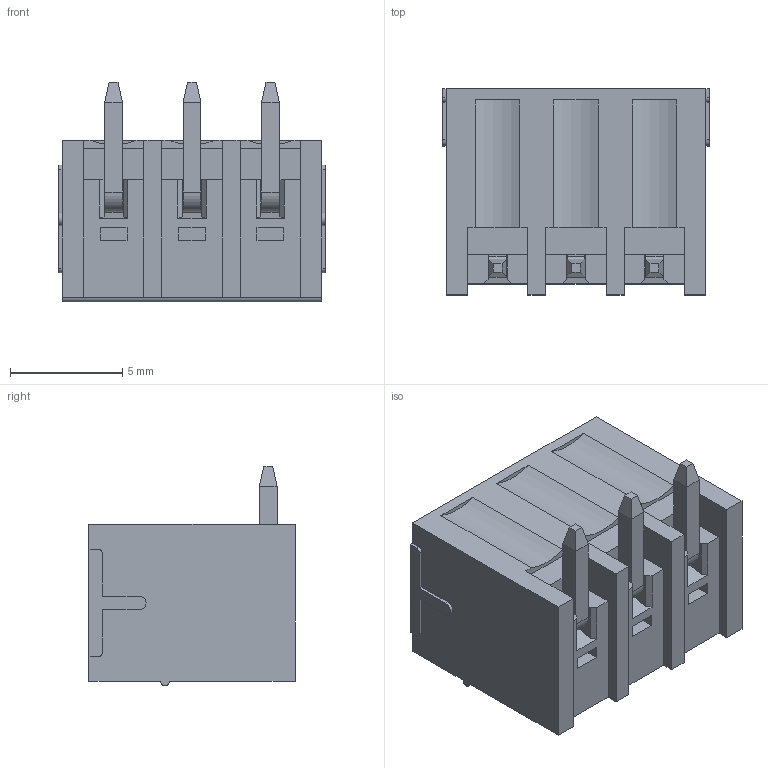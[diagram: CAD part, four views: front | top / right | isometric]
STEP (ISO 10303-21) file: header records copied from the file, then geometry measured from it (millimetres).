
FILE_DESCRIPTION((''),'2;1');
FILE_NAME('3PIN','2022-06-13T',('renkang.li'),(''),'CREO PARAMETRIC BY PTC INC, 2016260','CREO PARAMETRIC BY PTC INC, 2016260','');
FILE_SCHEMA(('CONFIG_CONTROL_DESIGN'));
Length unit declared in the file: millimetre
Products named in the file (1): 3PIN
Bounding box: 11.9 x 9.2 x 9.8 mm (x, y, z)
Volume: 355.9 mm3; surface area: 1187.6 mm2
Topology: 1 solids, 25 shells, 394 faces, 975 edges, 640 vertices
Faces by surface type: plane 339, cylinder 43, cone 6, torus 6
Entity records: 11566 total; most frequent: CARTESIAN_POINT 2108, ORIENTED_EDGE 1950, DIRECTION 1873, EDGE_CURVE 975, VECTOR 841, LINE 841, VERTEX_POINT 640, AXIS2_PLACEMENT_3D 516
